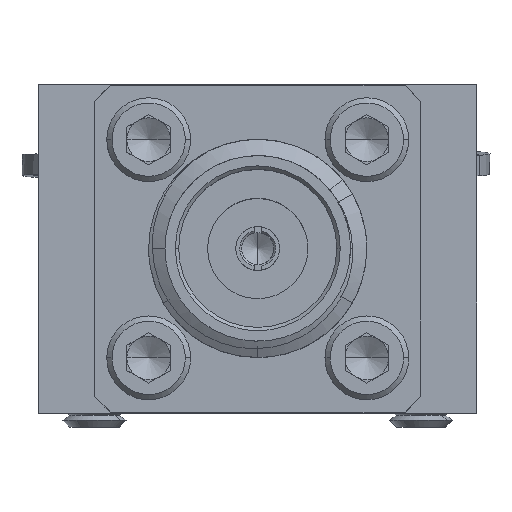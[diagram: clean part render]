
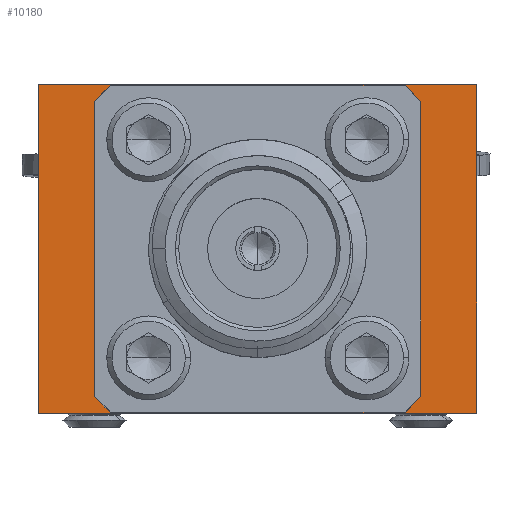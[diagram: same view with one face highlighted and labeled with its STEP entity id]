
A CAD part, top view. The second image highlights one B-rep face of the part: STEP entity #10180.
In plain terms, the highlighted planar face has unit normal (0, 0, 1).
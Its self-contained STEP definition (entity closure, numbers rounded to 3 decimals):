
#9702=CARTESIAN_POINT('Vertex',(6.375,4.78,0.)) ;
#9705=CARTESIAN_POINT('Line Origine',(6.375,0.,0.)) ;
#9709=CARTESIAN_POINT('Vertex',(6.375,-4.78,0.)) ;
#9929=CARTESIAN_POINT('Vertex',(-0.375,0.,0.)) ;
#9948=CARTESIAN_POINT('Vertex',(0.375,0.,0.)) ;
#9951=CARTESIAN_POINT('Axis2P3D Location',(0.,0.,0.)) ;
#10057=CARTESIAN_POINT('Line Origine',(0.,4.78,0.)) ;
#10061=CARTESIAN_POINT('Vertex',(-6.375,4.78,0.)) ;
#10076=CARTESIAN_POINT('Axis2P3D Location',(0.,0.,0.)) ;
#10081=CARTESIAN_POINT('Line Origine',(-6.375,0.,0.)) ;
#10085=CARTESIAN_POINT('Vertex',(-6.375,-4.78,0.)) ;
#10088=CARTESIAN_POINT('Line Origine',(0.,-4.78,0.)) ;
#10099=CARTESIAN_POINT('Axis2P3D Location',(0.,0.,0.)) ;
#10108=CARTESIAN_POINT('Axis2P3D Location',(-3.175,-3.175,0.)) ;
#10112=CARTESIAN_POINT('Vertex',(-2.615,-3.175,0.)) ;
#10114=CARTESIAN_POINT('Vertex',(-3.735,-3.175,0.)) ;
#10117=CARTESIAN_POINT('Axis2P3D Location',(-3.175,-3.175,0.)) ;
#10126=CARTESIAN_POINT('Axis2P3D Location',(3.175,-3.175,0.)) ;
#10130=CARTESIAN_POINT('Vertex',(3.735,-3.175,0.)) ;
#10132=CARTESIAN_POINT('Vertex',(2.615,-3.175,0.)) ;
#10135=CARTESIAN_POINT('Axis2P3D Location',(3.175,-3.175,0.)) ;
#10144=CARTESIAN_POINT('Axis2P3D Location',(3.175,3.175,0.)) ;
#10148=CARTESIAN_POINT('Vertex',(3.735,3.175,0.)) ;
#10150=CARTESIAN_POINT('Vertex',(2.615,3.175,0.)) ;
#10153=CARTESIAN_POINT('Axis2P3D Location',(3.175,3.175,0.)) ;
#10162=CARTESIAN_POINT('Axis2P3D Location',(-3.175,3.175,0.)) ;
#10166=CARTESIAN_POINT('Vertex',(-2.615,3.175,0.)) ;
#10168=CARTESIAN_POINT('Vertex',(-3.735,3.175,0.)) ;
#10171=CARTESIAN_POINT('Axis2P3D Location',(-3.175,3.175,0.)) ;
#9706=DIRECTION('Vector Direction',(0.,1.,0.)) ;
#9952=DIRECTION('Axis2P3D Direction',(0.,-0.,1.)) ;
#10058=DIRECTION('Vector Direction',(-1.,0.,0.)) ;
#10077=DIRECTION('Axis2P3D Direction',(-0.,0.,1.)) ;
#10078=DIRECTION('Axis2P3D XDirection',(1.,0.,0.)) ;
#10082=DIRECTION('Vector Direction',(0.,-1.,0.)) ;
#10089=DIRECTION('Vector Direction',(1.,0.,0.)) ;
#10100=DIRECTION('Axis2P3D Direction',(-0.,0.,1.)) ;
#10109=DIRECTION('Axis2P3D Direction',(-0.,0.,1.)) ;
#10118=DIRECTION('Axis2P3D Direction',(-0.,0.,1.)) ;
#10127=DIRECTION('Axis2P3D Direction',(-0.,0.,1.)) ;
#10136=DIRECTION('Axis2P3D Direction',(-0.,0.,1.)) ;
#10145=DIRECTION('Axis2P3D Direction',(-0.,0.,1.)) ;
#10154=DIRECTION('Axis2P3D Direction',(-0.,0.,1.)) ;
#10163=DIRECTION('Axis2P3D Direction',(-0.,0.,1.)) ;
#10172=DIRECTION('Axis2P3D Direction',(-0.,0.,1.)) ;
#9953=AXIS2_PLACEMENT_3D('Circle Axis2P3D',#9951,#9952,$) ;
#10079=AXIS2_PLACEMENT_3D('Plane Axis2P3D',#10076,#10077,#10078) ;
#10101=AXIS2_PLACEMENT_3D('Circle Axis2P3D',#10099,#10100,$) ;
#10110=AXIS2_PLACEMENT_3D('Circle Axis2P3D',#10108,#10109,$) ;
#10119=AXIS2_PLACEMENT_3D('Circle Axis2P3D',#10117,#10118,$) ;
#10128=AXIS2_PLACEMENT_3D('Circle Axis2P3D',#10126,#10127,$) ;
#10137=AXIS2_PLACEMENT_3D('Circle Axis2P3D',#10135,#10136,$) ;
#10146=AXIS2_PLACEMENT_3D('Circle Axis2P3D',#10144,#10145,$) ;
#10155=AXIS2_PLACEMENT_3D('Circle Axis2P3D',#10153,#10154,$) ;
#10164=AXIS2_PLACEMENT_3D('Circle Axis2P3D',#10162,#10163,$) ;
#10173=AXIS2_PLACEMENT_3D('Circle Axis2P3D',#10171,#10172,$) ;
#10094=ORIENTED_EDGE('',*,*,#9711,.T.) ;
#10095=ORIENTED_EDGE('',*,*,#10063,.T.) ;
#10096=ORIENTED_EDGE('',*,*,#10087,.T.) ;
#10097=ORIENTED_EDGE('',*,*,#10092,.T.) ;
#10105=ORIENTED_EDGE('',*,*,#9955,.F.) ;
#10106=ORIENTED_EDGE('',*,*,#10103,.F.) ;
#10123=ORIENTED_EDGE('',*,*,#10116,.F.) ;
#10124=ORIENTED_EDGE('',*,*,#10121,.F.) ;
#10141=ORIENTED_EDGE('',*,*,#10134,.F.) ;
#10142=ORIENTED_EDGE('',*,*,#10139,.F.) ;
#10159=ORIENTED_EDGE('',*,*,#10152,.F.) ;
#10160=ORIENTED_EDGE('',*,*,#10157,.F.) ;
#10177=ORIENTED_EDGE('',*,*,#10170,.F.) ;
#10178=ORIENTED_EDGE('',*,*,#10175,.F.) ;
#10107=FACE_BOUND('',#10104,.T.) ;
#10125=FACE_BOUND('',#10122,.T.) ;
#10143=FACE_BOUND('',#10140,.T.) ;
#10161=FACE_BOUND('',#10158,.T.) ;
#10179=FACE_BOUND('',#10176,.T.) ;
#9707=VECTOR('Line Direction',#9706,1.) ;
#10059=VECTOR('Line Direction',#10058,1.) ;
#10083=VECTOR('Line Direction',#10082,1.) ;
#10090=VECTOR('Line Direction',#10089,1.) ;
#10180=ADVANCED_FACE('\X2\52079664\X0\-\X2\62C94F38\X0\7',(#10098,#10107,#10125,#10143,#10161,#10179),#10080,.T.) ;
#9954=CIRCLE('generated circle',#9953,0.375) ;
#10102=CIRCLE('generated circle',#10101,0.375) ;
#10111=CIRCLE('generated circle',#10110,0.56) ;
#10120=CIRCLE('generated circle',#10119,0.56) ;
#10129=CIRCLE('generated circle',#10128,0.56) ;
#10138=CIRCLE('generated circle',#10137,0.56) ;
#10147=CIRCLE('generated circle',#10146,0.56) ;
#10156=CIRCLE('generated circle',#10155,0.56) ;
#10165=CIRCLE('generated circle',#10164,0.56) ;
#10174=CIRCLE('generated circle',#10173,0.56) ;
#9711=EDGE_CURVE('',#9710,#9703,#9708,.T.) ;
#9955=EDGE_CURVE('',#9949,#9930,#9954,.T.) ;
#10063=EDGE_CURVE('',#9703,#10062,#10060,.T.) ;
#10087=EDGE_CURVE('',#10062,#10086,#10084,.T.) ;
#10092=EDGE_CURVE('',#10086,#9710,#10091,.T.) ;
#10103=EDGE_CURVE('',#9930,#9949,#10102,.T.) ;
#10116=EDGE_CURVE('',#10113,#10115,#10111,.T.) ;
#10121=EDGE_CURVE('',#10115,#10113,#10120,.T.) ;
#10134=EDGE_CURVE('',#10131,#10133,#10129,.T.) ;
#10139=EDGE_CURVE('',#10133,#10131,#10138,.T.) ;
#10152=EDGE_CURVE('',#10149,#10151,#10147,.T.) ;
#10157=EDGE_CURVE('',#10151,#10149,#10156,.T.) ;
#10170=EDGE_CURVE('',#10167,#10169,#10165,.T.) ;
#10175=EDGE_CURVE('',#10169,#10167,#10174,.T.) ;
#10093=EDGE_LOOP('',(#10094,#10095,#10096,#10097)) ;
#10104=EDGE_LOOP('',(#10105,#10106)) ;
#10122=EDGE_LOOP('',(#10123,#10124)) ;
#10140=EDGE_LOOP('',(#10141,#10142)) ;
#10158=EDGE_LOOP('',(#10159,#10160)) ;
#10176=EDGE_LOOP('',(#10177,#10178)) ;
#10098=FACE_OUTER_BOUND('',#10093,.T.) ;
#9708=LINE('Line',#9705,#9707) ;
#10060=LINE('Line',#10057,#10059) ;
#10084=LINE('Line',#10081,#10083) ;
#10091=LINE('Line',#10088,#10090) ;
#10080=PLANE('Plane',#10079) ;
#9703=VERTEX_POINT('',#9702) ;
#9710=VERTEX_POINT('',#9709) ;
#9930=VERTEX_POINT('',#9929) ;
#9949=VERTEX_POINT('',#9948) ;
#10062=VERTEX_POINT('',#10061) ;
#10086=VERTEX_POINT('',#10085) ;
#10113=VERTEX_POINT('',#10112) ;
#10115=VERTEX_POINT('',#10114) ;
#10131=VERTEX_POINT('',#10130) ;
#10133=VERTEX_POINT('',#10132) ;
#10149=VERTEX_POINT('',#10148) ;
#10151=VERTEX_POINT('',#10150) ;
#10167=VERTEX_POINT('',#10166) ;
#10169=VERTEX_POINT('',#10168) ;
